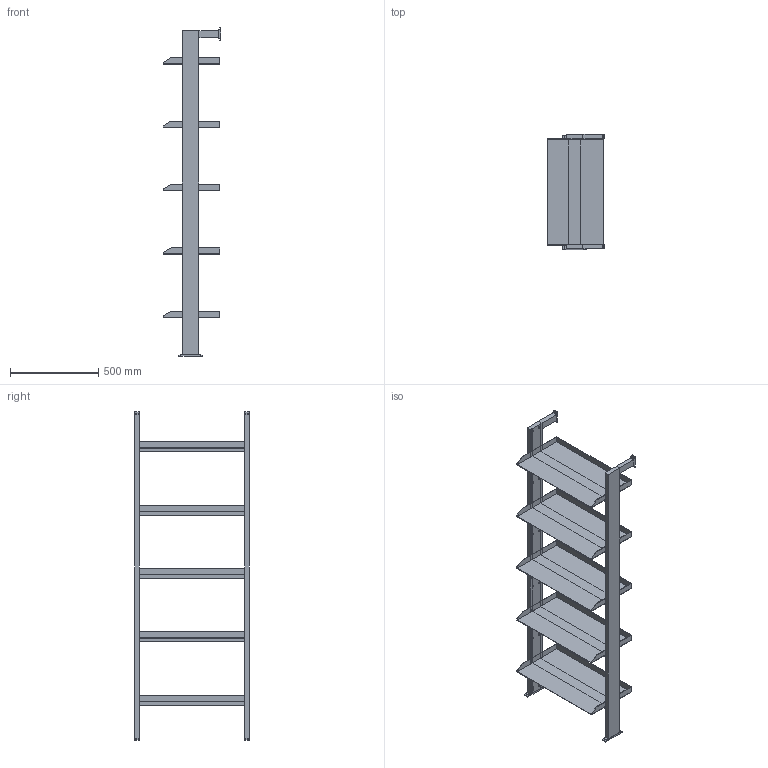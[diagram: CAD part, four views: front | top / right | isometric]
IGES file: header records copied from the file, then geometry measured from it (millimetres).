
Start section: Comment
Global section: file name: Regal - 1840 x 0600 - Wand.igs; native system:  By UGS Corp.; preprocessor: XPlus GENERIC/IGES 3.0; author: Author; organization: Title; date: 20170123.125138; units: inch
Bounding box: 325.1 x 650 x 1866 mm (x, y, z)
Surface area: 3438365.2 mm2 (no closed solid volume)
Topology: 0 solids, 0 shells, 321 faces, 1476 edges, 1476 vertices
Faces by surface type: bspline 321
